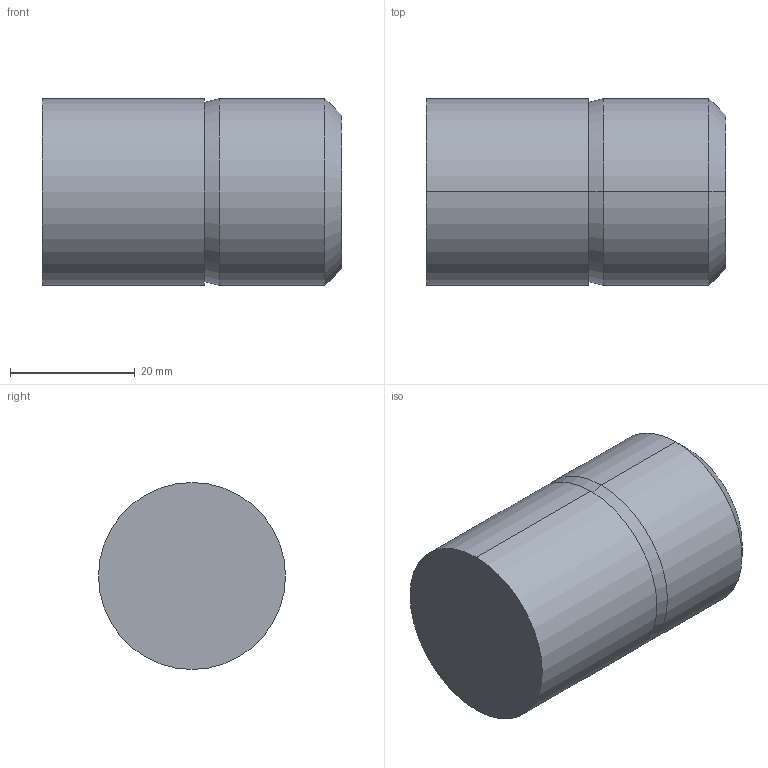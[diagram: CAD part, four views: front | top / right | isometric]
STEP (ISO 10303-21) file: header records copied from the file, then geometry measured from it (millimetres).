
FILE_DESCRIPTION (( 'STEP AP203' ), '1' );
FILE_NAME ('S3-30.STEP', '2002-08-16T10:49:29', ( '.' ), ( '.' ), 'SwSTEP 2.0', 'SolidWorks 2001340', '' );
FILE_SCHEMA (( 'CONFIG_CONTROL_DESIGN' ));
Length unit declared in the file: millimetre
Products named in the file (1): S3-30
Bounding box: 48 x 30 x 30 mm (x, y, z)
Volume: 33534.6 mm3; surface area: 5841.3 mm2
Topology: 1 solids, 1 shells, 11 faces, 20 edges, 12 vertices
Faces by surface type: cone 4, cylinder 4, plane 3
Entity records: 351 total; most frequent: DIRECTION 56, CARTESIAN_POINT 44, ORIENTED_EDGE 40, AXIS2_PLACEMENT_3D 24, EDGE_CURVE 20, EDGE_LOOP 12, VERTEX_POINT 12, CIRCLE 12
